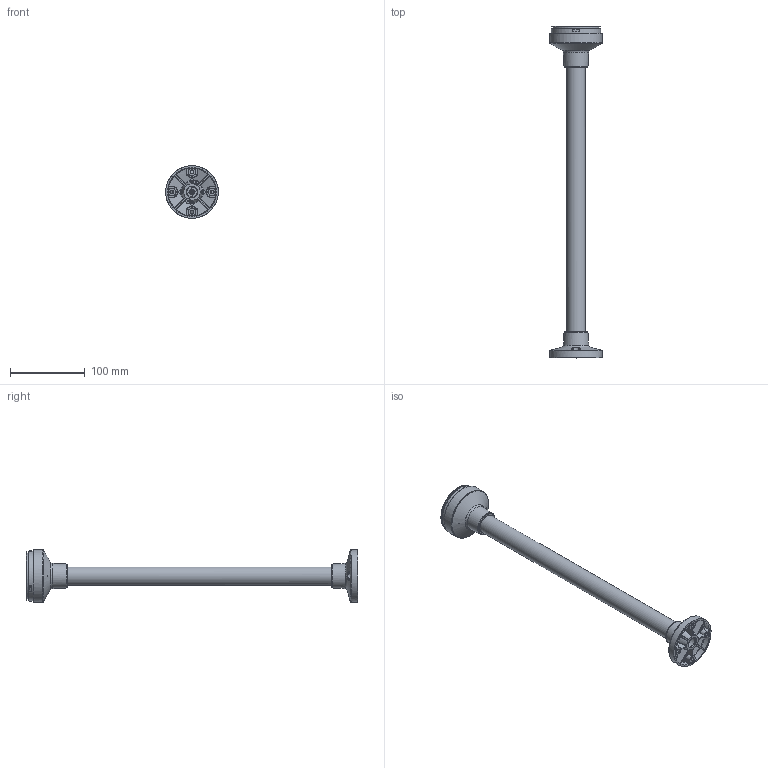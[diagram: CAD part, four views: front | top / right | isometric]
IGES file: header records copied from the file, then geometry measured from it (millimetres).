
Global section: file name: H:\lem\3DCAD_A7_MP1_400.igs; native system: NX V11.0; preprocessor: SIEMENS PLM Software NX 11.0; date: 20190826.134309; units: millimetre
Bounding box: 70.6 x 445.2 x 70.6 mm (x, y, z)
Surface area: 114113.7 mm2 (no closed solid volume)
Topology: 0 solids, 0 shells, 1352 faces, 8520 edges, 8489 vertices
Faces by surface type: bspline 1352
